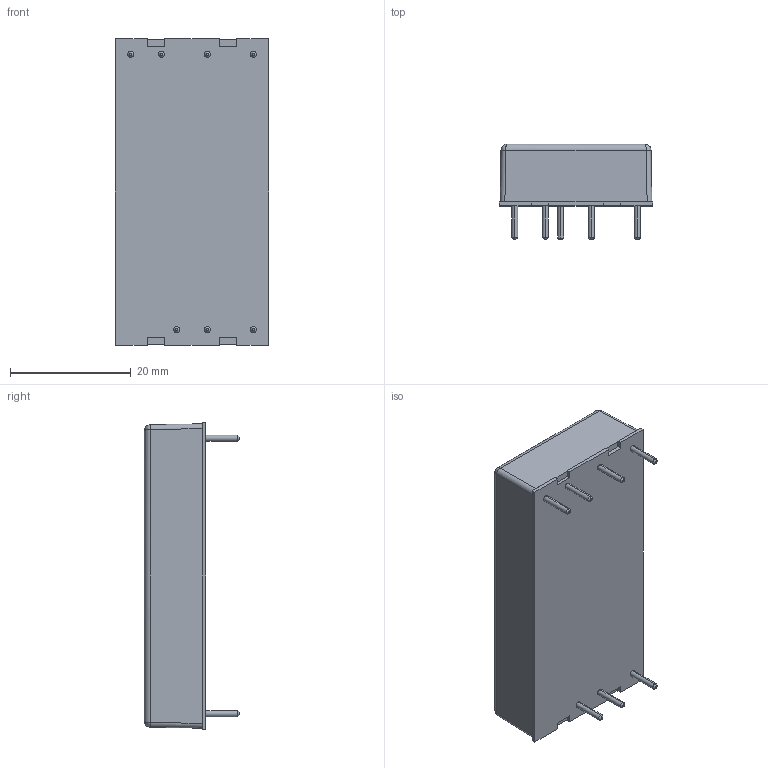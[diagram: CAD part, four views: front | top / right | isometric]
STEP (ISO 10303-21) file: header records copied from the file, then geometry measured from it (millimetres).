
FILE_DESCRIPTION (( 'STEP AP214' ), '1' );
FILE_NAME ('TEN 30-XX3XWIN.STEP', '2018-11-22T08:08:03', ( 'user' ), ( '' ), 'SwSTEP 2.0', 'SolidWorks 2016', '' );
FILE_SCHEMA (( 'AUTOMOTIVE_DESIGN' ));
Length unit declared in the file: millimetre
Products named in the file (1): TEN 30-XX3XWIN
Bounding box: 25.4 x 15.8 x 50.8 mm (x, y, z)
Volume: 12855.7 mm3; surface area: 4139.9 mm2
Topology: 1 solids, 1 shells, 81 faces, 186 edges, 110 vertices
Faces by surface type: plane 41, cylinder 22, cone 14, bspline 4
Entity records: 2787 total; most frequent: CARTESIAN_POINT 686, DIRECTION 372, ORIENTED_EDGE 364, EDGE_CURVE 182, AXIS2_PLACEMENT_3D 124, LINE 124, VECTOR 124, VERTEX_POINT 110
